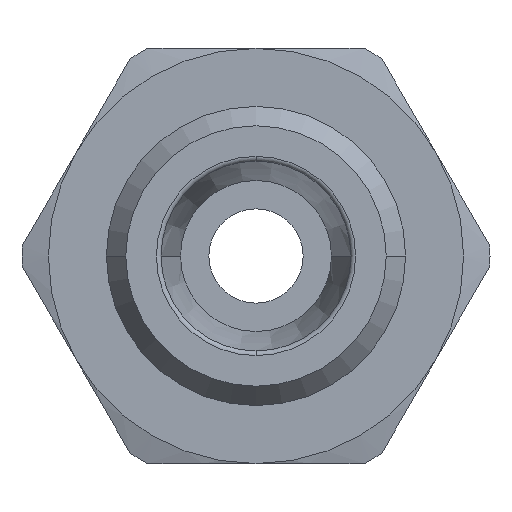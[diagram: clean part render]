
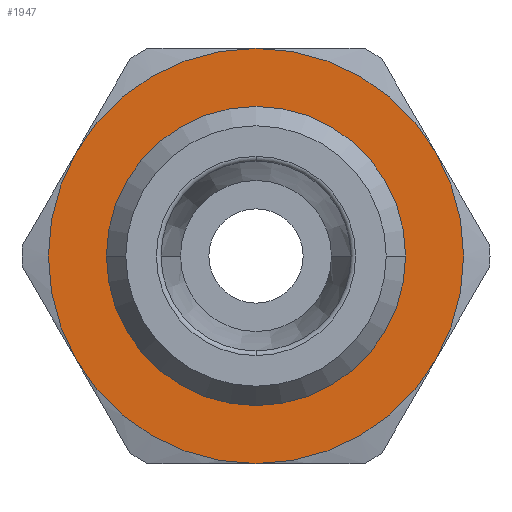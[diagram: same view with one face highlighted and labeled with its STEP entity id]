
A CAD part, left-side view. The second image highlights one B-rep face of the part: STEP entity #1947.
In plain terms, the highlighted planar face has unit normal (-1, 0, 0) as drawn and (0, 0, 1) by its records, which use the part's own axes.
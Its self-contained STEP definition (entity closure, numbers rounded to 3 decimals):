
#857=CARTESIAN_POINT('',(-7.8,0.,4.));
#858=VERTEX_POINT('',#857);
#884=CARTESIAN_POINT('',(7.8,0.,4.));
#885=VERTEX_POINT('',#884);
#893=CARTESIAN_POINT('',(0.,0.,4.0));
#894=DIRECTION('',(0.0,0.0,1.0));
#895=DIRECTION('',(-1.0,0.0,0.0));
#896=AXIS2_PLACEMENT_3D('',#893,#894,#895);
#897=CIRCLE('',#896,7.8);
#898=EDGE_CURVE('',#885,#858,#897,.T.);
#1827=CARTESIAN_POINT('',(0.,-7.8,4.));
#1828=VERTEX_POINT('',#1827);
#1829=CARTESIAN_POINT('',(0.,0.,4.0));
#1830=DIRECTION('',(0.0,0.0,1.0));
#1831=DIRECTION('',(-1.0,0.0,0.0));
#1832=AXIS2_PLACEMENT_3D('',#1829,#1830,#1831);
#1833=CIRCLE('',#1832,7.8);
#1834=EDGE_CURVE('',#858,#1828,#1833,.T.);
#1836=CARTESIAN_POINT('',(0.,0.,4.0));
#1837=DIRECTION('',(0.0,0.0,1.0));
#1838=DIRECTION('',(-1.0,0.0,0.0));
#1839=AXIS2_PLACEMENT_3D('',#1836,#1837,#1838);
#1840=CIRCLE('',#1839,7.8);
#1841=EDGE_CURVE('',#1828,#885,#1840,.T.);
#1881=CARTESIAN_POINT('',(0.,0.,4.0));
#1882=DIRECTION('',(0.0,0.0,1.0));
#1883=DIRECTION('',(1.0,0.0,0.0));
#1884=AXIS2_PLACEMENT_3D('',#1881,#1882,#1883);
#1885=PLANE('',#1884);
#1886=CARTESIAN_POINT('',(5.5,-9.526,4.));
#1887=VERTEX_POINT('',#1886);
#1888=CARTESIAN_POINT('',(11.,0.0,4.));
#1889=VERTEX_POINT('',#1888);
#1890=CARTESIAN_POINT('',(0.,0.0,4.0));
#1891=DIRECTION('',(0.0,0.0,1.0));
#1892=DIRECTION('',(1.0,0.0,0.0));
#1893=AXIS2_PLACEMENT_3D('',#1890,#1891,#1892);
#1894=CIRCLE('',#1893,11.);
#1895=EDGE_CURVE('',#1887,#1889,#1894,.T.);
#1896=ORIENTED_EDGE('',*,*,#1895,.T.);
#1897=CARTESIAN_POINT('',(5.5,9.526,4.));
#1898=VERTEX_POINT('',#1897);
#1899=CARTESIAN_POINT('',(0.,0.0,4.0));
#1900=DIRECTION('',(0.0,0.0,1.0));
#1901=DIRECTION('',(1.0,0.0,0.0));
#1902=AXIS2_PLACEMENT_3D('',#1899,#1900,#1901);
#1903=CIRCLE('',#1902,11.);
#1904=EDGE_CURVE('',#1889,#1898,#1903,.T.);
#1905=ORIENTED_EDGE('',*,*,#1904,.T.);
#1906=CARTESIAN_POINT('',(-5.5,9.526,4.));
#1907=VERTEX_POINT('',#1906);
#1908=CARTESIAN_POINT('',(0.,0.0,4.0));
#1909=DIRECTION('',(0.0,0.0,1.0));
#1910=DIRECTION('',(1.0,0.0,0.0));
#1911=AXIS2_PLACEMENT_3D('',#1908,#1909,#1910);
#1912=CIRCLE('',#1911,11.);
#1913=EDGE_CURVE('',#1898,#1907,#1912,.T.);
#1914=ORIENTED_EDGE('',*,*,#1913,.T.);
#1915=CARTESIAN_POINT('',(-11.0,0.,4.));
#1916=VERTEX_POINT('',#1915);
#1917=CARTESIAN_POINT('',(0.,0.0,4.0));
#1918=DIRECTION('',(0.0,0.0,1.0));
#1919=DIRECTION('',(1.0,0.0,0.0));
#1920=AXIS2_PLACEMENT_3D('',#1917,#1918,#1919);
#1921=CIRCLE('',#1920,11.);
#1922=EDGE_CURVE('',#1907,#1916,#1921,.T.);
#1923=ORIENTED_EDGE('',*,*,#1922,.T.);
#1924=CARTESIAN_POINT('',(-5.5,-9.526,4.));
#1925=VERTEX_POINT('',#1924);
#1926=CARTESIAN_POINT('',(0.,0.0,4.0));
#1927=DIRECTION('',(0.0,0.0,1.0));
#1928=DIRECTION('',(1.0,0.0,0.0));
#1929=AXIS2_PLACEMENT_3D('',#1926,#1927,#1928);
#1930=CIRCLE('',#1929,11.);
#1931=EDGE_CURVE('',#1916,#1925,#1930,.T.);
#1932=ORIENTED_EDGE('',*,*,#1931,.T.);
#1933=CARTESIAN_POINT('',(0.,0.0,4.0));
#1934=DIRECTION('',(0.0,0.0,1.0));
#1935=DIRECTION('',(1.0,0.0,0.0));
#1936=AXIS2_PLACEMENT_3D('',#1933,#1934,#1935);
#1937=CIRCLE('',#1936,11.);
#1938=EDGE_CURVE('',#1925,#1887,#1937,.T.);
#1939=ORIENTED_EDGE('',*,*,#1938,.T.);
#1940=EDGE_LOOP('',(#1896,#1905,#1914,#1923,#1932,#1939));
#1941=FACE_OUTER_BOUND('',#1940,.T.);
#1942=ORIENTED_EDGE('',*,*,#1841,.F.);
#1943=ORIENTED_EDGE('',*,*,#1834,.F.);
#1944=ORIENTED_EDGE('',*,*,#898,.F.);
#1945=EDGE_LOOP('',(#1942,#1943,#1944));
#1946=FACE_BOUND('',#1945,.T.);
#1947=ADVANCED_FACE('',(#1941,#1946),#1885,.T.);
